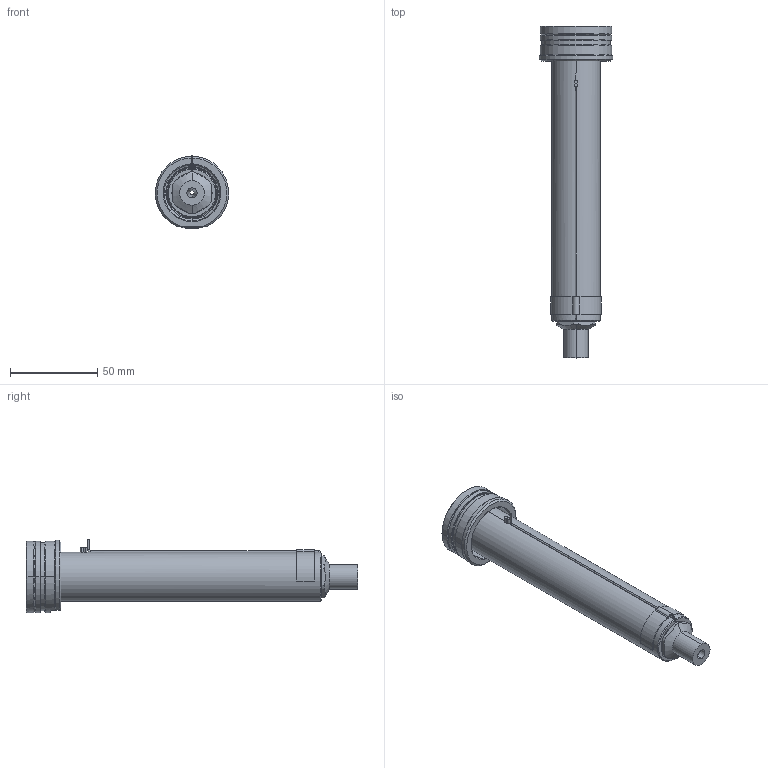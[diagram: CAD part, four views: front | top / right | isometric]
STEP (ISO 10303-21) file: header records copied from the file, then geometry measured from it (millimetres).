
FILE_DESCRIPTION((''),'2;1');
FILE_NAME('EO10_VG-ST_ESG_160_SW','2024-02-19T12:49:09',('sundharh'),(''),'CREO PARAMETRIC BY PTC INC, 2023154','CREO PARAMETRIC BY PTC INC, 2023154','');
FILE_SCHEMA(('CONFIG_CONTROL_DESIGN'));
Length unit declared in the file: millimetre
Products named in the file (1): EO10_VG-ST_ESG_160_SW
Bounding box: 41.85 x 190 x 42.02 mm (x, y, z)
Volume: 106292.6 mm3; surface area: 28206.1 mm2
Topology: 1 solids, 1 shells, 164 faces, 414 edges, 256 vertices
Faces by surface type: cylinder 63, plane 44, cone 33, torus 17, bspline 5, sphere 2
Entity records: 5672 total; most frequent: CARTESIAN_POINT 1640, DIRECTION 887, ORIENTED_EDGE 820, EDGE_CURVE 410, AXIS2_PLACEMENT_3D 366, VERTEX_POINT 256, CIRCLE 207, EDGE_LOOP 178
